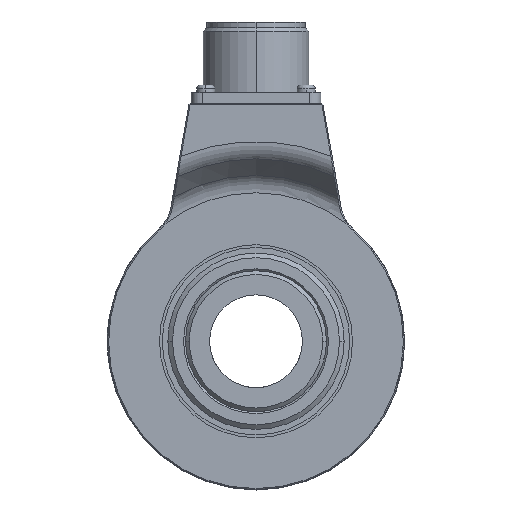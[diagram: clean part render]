
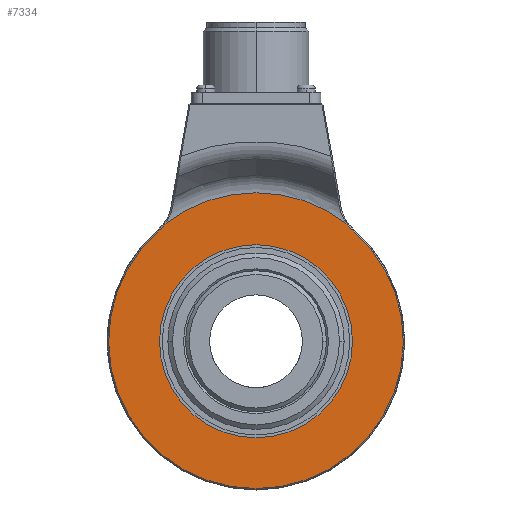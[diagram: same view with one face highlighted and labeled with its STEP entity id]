
A CAD part, left-side view. The second image highlights one B-rep face of the part: STEP entity #7334.
In plain terms, the highlighted planar face has unit normal (-1, 0, 0).
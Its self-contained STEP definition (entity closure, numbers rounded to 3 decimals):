
#57 = FACE_BOUND ( 'NONE', #17058, .T. ) ;
#252 = DIRECTION ( 'NONE',  ( -1., 0., 0. ) ) ;
#973 = VERTEX_POINT ( 'NONE', #11749 ) ;
#1079 = DIRECTION ( 'NONE',  ( 0., 0., -1. ) ) ;
#1225 = DIRECTION ( 'NONE',  ( 1., 0., 0. ) ) ;
#1372 = VERTEX_POINT ( 'NONE', #14052 ) ;
#1987 = DIRECTION ( 'NONE',  ( 0., 0., -1. ) ) ;
#2901 = CARTESIAN_POINT ( 'NONE',  ( -26., 0., 0. ) ) ;
#2926 = CARTESIAN_POINT ( 'NONE',  ( -26., -32.782, 37.753 ) ) ;
#3000 = AXIS2_PLACEMENT_3D ( 'NONE', #2926, #1225, #11967 ) ;
#3016 = CIRCLE ( 'NONE', #10714, 39.7 ) ;
#3228 = ORIENTED_EDGE ( 'NONE', *, *, #4821, .T. ) ;
#3371 = AXIS2_PLACEMENT_3D ( 'NONE', #12311, #19695, #17880 ) ;
#3766 = EDGE_CURVE ( 'NONE', #973, #20427, #15071, .T. ) ;
#3995 = EDGE_CURVE ( 'NONE', #20427, #973, #13791, .T. ) ;
#4821 = EDGE_CURVE ( 'NONE', #5172, #1372, #19828, .T. ) ;
#5172 = VERTEX_POINT ( 'NONE', #21113 ) ;
#5355 = ORIENTED_EDGE ( 'NONE', *, *, #11557, .T. ) ;
#5371 = CARTESIAN_POINT ( 'NONE',  ( -26., 0., 0. ) ) ;
#5621 = DIRECTION ( 'NONE',  ( -1., 0., 0. ) ) ;
#5686 = DIRECTION ( 'NONE',  ( 0., 0., -1. ) ) ;
#5716 = DIRECTION ( 'NONE',  ( -1., 0., 0. ) ) ;
#5975 = ORIENTED_EDGE ( 'NONE', *, *, #14231, .T. ) ;
#6279 = DIRECTION ( 'NONE',  ( -1., 0., 0. ) ) ;
#7289 = VERTEX_POINT ( 'NONE', #22164 ) ;
#7334 = ADVANCED_FACE ( 'NONE', ( #57, #22511 ), #13350, .T. ) ;
#7662 = CARTESIAN_POINT ( 'NONE',  ( -26., 0., 0. ) ) ;
#9416 = AXIS2_PLACEMENT_3D ( 'NONE', #18775, #22501, #15280 ) ;
#9734 = EDGE_LOOP ( 'NONE', ( #5355, #5975, #3228, #13904 ) ) ;
#10714 = AXIS2_PLACEMENT_3D ( 'NONE', #2901, #6279, #1079 ) ;
#11557 = EDGE_CURVE ( 'NONE', #20278, #7289, #3016, .T. ) ;
#11749 = CARTESIAN_POINT ( 'NONE',  ( -26., 0., -26. ) ) ;
#11967 = DIRECTION ( 'NONE',  ( 0., 0., -1. ) ) ;
#12311 = CARTESIAN_POINT ( 'NONE',  ( -26., 0., 0. ) ) ;
#13183 = CARTESIAN_POINT ( 'NONE',  ( -26., 0., 0. ) ) ;
#13350 = PLANE ( 'NONE',  #19016 ) ;
#13644 = AXIS2_PLACEMENT_3D ( 'NONE', #5371, #5716, #18534 ) ;
#13791 = CIRCLE ( 'NONE', #3371, 26. ) ;
#13904 = ORIENTED_EDGE ( 'NONE', *, *, #22650, .T. ) ;
#14052 = CARTESIAN_POINT ( 'NONE',  ( -26., 24.52, 31.603 ) ) ;
#14231 = EDGE_CURVE ( 'NONE', #7289, #5172, #15352, .T. ) ;
#15071 = CIRCLE ( 'NONE', #22223, 26. ) ;
#15280 = DIRECTION ( 'NONE',  ( 0., 0., -1. ) ) ;
#15352 = CIRCLE ( 'NONE', #3000, 10.3 ) ;
#17058 = EDGE_LOOP ( 'NONE', ( #21230, #22358 ) ) ;
#17880 = DIRECTION ( 'NONE',  ( 0., 0., -1. ) ) ;
#18534 = DIRECTION ( 'NONE',  ( 0., 0., -1. ) ) ;
#18775 = CARTESIAN_POINT ( 'NONE',  ( -26., 32.782, 37.753 ) ) ;
#19016 = AXIS2_PLACEMENT_3D ( 'NONE', #7662, #5621, #1987 ) ;
#19695 = DIRECTION ( 'NONE',  ( -1., 0., 0. ) ) ;
#19828 = CIRCLE ( 'NONE', #13644, 40. ) ;
#19856 = CARTESIAN_POINT ( 'NONE',  ( -26., 0., 26. ) ) ;
#19870 = CIRCLE ( 'NONE', #9416, 10.3 ) ;
#20278 = VERTEX_POINT ( 'NONE', #23772 ) ;
#20427 = VERTEX_POINT ( 'NONE', #19856 ) ;
#21113 = CARTESIAN_POINT ( 'NONE',  ( -26., -24.52, 31.603 ) ) ;
#21230 = ORIENTED_EDGE ( 'NONE', *, *, #3766, .F. ) ;
#22164 = CARTESIAN_POINT ( 'NONE',  ( -26., -26.029, 29.976 ) ) ;
#22223 = AXIS2_PLACEMENT_3D ( 'NONE', #13183, #252, #5686 ) ;
#22358 = ORIENTED_EDGE ( 'NONE', *, *, #3995, .F. ) ;
#22501 = DIRECTION ( 'NONE',  ( 1., 0., 0. ) ) ;
#22511 = FACE_OUTER_BOUND ( 'NONE', #9734, .T. ) ;
#22650 = EDGE_CURVE ( 'NONE', #1372, #20278, #19870, .T. ) ;
#23772 = CARTESIAN_POINT ( 'NONE',  ( -26., 26.029, 29.976 ) ) ;
